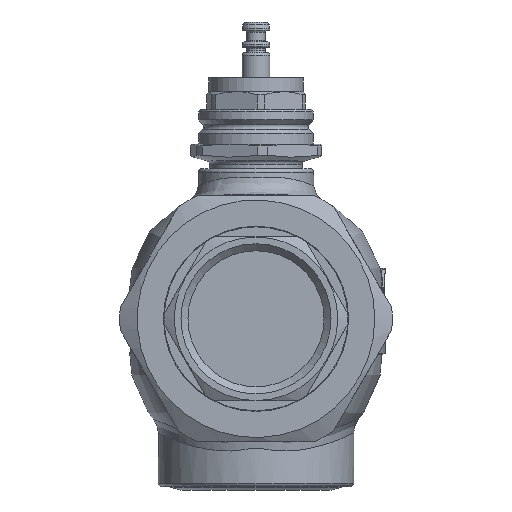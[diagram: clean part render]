
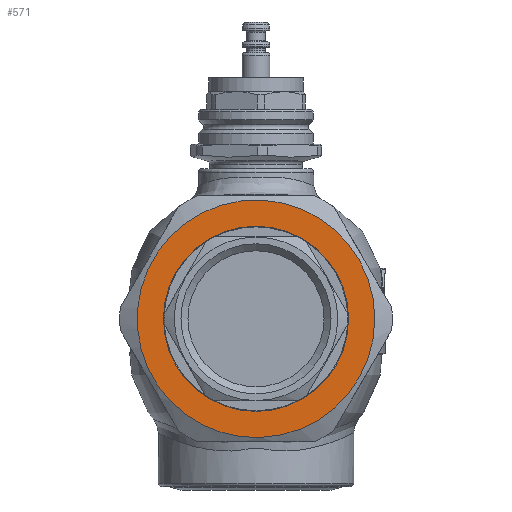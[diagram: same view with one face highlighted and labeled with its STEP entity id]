
A CAD part, left-side view. The second image highlights one B-rep face of the part: STEP entity #571.
In plain terms, the highlighted planar face has unit normal (-1, 0, 0).
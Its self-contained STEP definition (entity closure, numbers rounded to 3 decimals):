
#289=PLANE('',#3086);
#373=FACE_BOUND('',#951,.T.);
#374=FACE_BOUND('',#952,.T.);
#571=ADVANCED_FACE('',(#373,#374),#289,.T.);
#951=EDGE_LOOP('',(#1451));
#952=EDGE_LOOP('',(#1452));
#1262=CIRCLE('',#3084,26.5);
#1263=CIRCLE('',#3085,34.);
#1451=ORIENTED_EDGE('',*,*,#2507,.T.);
#1452=ORIENTED_EDGE('',*,*,#2508,.T.);
#2227=VERTEX_POINT('',#4323);
#2228=VERTEX_POINT('',#4325);
#2507=EDGE_CURVE('',#2227,#2227,#1262,.T.);
#2508=EDGE_CURVE('',#2228,#2228,#1263,.T.);
#3084=AXIS2_PLACEMENT_3D('',#4322,#3483,#3484);
#3085=AXIS2_PLACEMENT_3D('',#4324,#3485,#3486);
#3086=AXIS2_PLACEMENT_3D('',#4326,#3487,#3488);
#3483=DIRECTION('',(1.,0.,0.));
#3484=DIRECTION('',(0.,1.,0.));
#3485=DIRECTION('',(-1.,0.,0.));
#3486=DIRECTION('',(0.,-1.,0.));
#3487=DIRECTION('',(-1.,0.,0.));
#3488=DIRECTION('',(0.,-1.,0.));
#4322=CARTESIAN_POINT('',(23.,0.,100.));
#4323=CARTESIAN_POINT('',(23.,26.5,100.));
#4324=CARTESIAN_POINT('',(23.,0.,100.));
#4325=CARTESIAN_POINT('',(23.,-34.,100.));
#4326=CARTESIAN_POINT('',(23.,0.,100.));
